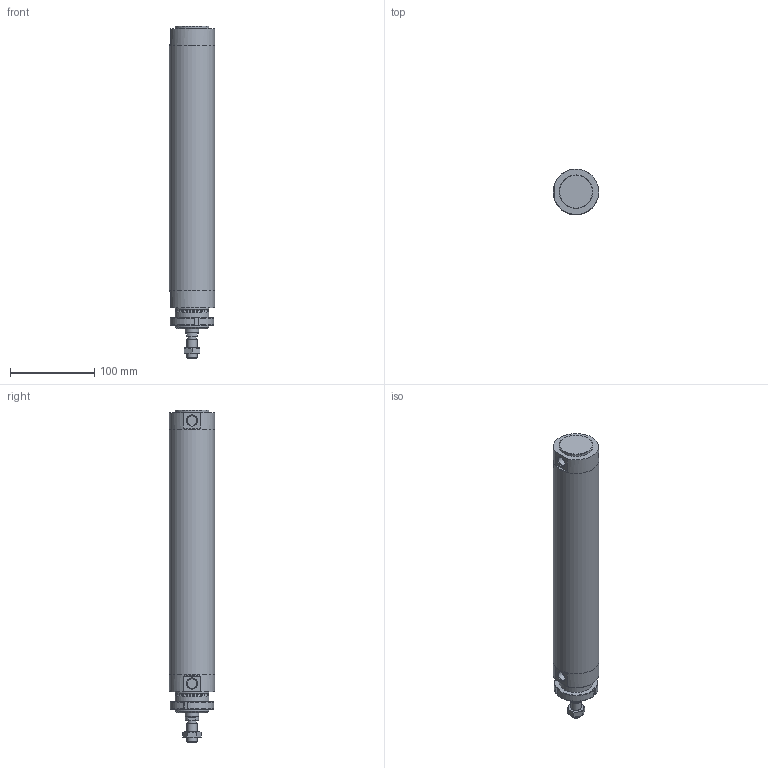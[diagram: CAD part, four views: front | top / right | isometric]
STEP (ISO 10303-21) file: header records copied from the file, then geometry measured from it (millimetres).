
FILE_DESCRIPTION(/* description */ (''),/* implementation_level */ '2;1');
FILE_NAME(/* name */ 'I:\Area Tecnica\Documenti\A-Manieri\_Inventor\12X\12X#D_###_####_#_#\12XAD_050_0250_#_#.stp',/* time_stamp */ '2015-04-29T16:44:25+02:00',/* author */ ('maniean1'),/* organization */ ('Pneumax S.p.A.'),/* preprocessor_version */ 'ST-DEVELOPER v15.2',/* originating_system */ 'Autodesk Inventor 2014',/* authorisation */ '');
FILE_SCHEMA (('AUTOMOTIVE_DESIGN { 1 0 10303 214 3 1 1 }'));
Length unit declared in the file: millimetre
Products named in the file (7): C1250_619-0250; 12X50_604; S12X50_0250; 12X_50_11; 12X50_611; G12X_050_05; 12XAD_050_0250_#_#
Bounding box: 54 x 54 x 395 mm (x, y, z)
Volume: 367416.3 mm3; surface area: 149779.5 mm2
Topology: 6 solids, 6 shells, 81 faces, 175 edges, 112 vertices
Faces by surface type: plane 41, cylinder 21, cone 19
Full cylindrical faces by diameter (mm): 10.2 x1, 11.4 x2, 12 x2, 14 x1, 15.6 x1, 16 x1, 38.2 x1, 40 x4, 50 x2, 54 x3
Entity records: 2155 total; most frequent: CARTESIAN_POINT 400, DIRECTION 364, ORIENTED_EDGE 284, AXIS2_PLACEMENT_3D 156, EDGE_CURVE 142, EDGE_LOOP 124, VERTEX_POINT 108, ADVANCED_FACE 81
